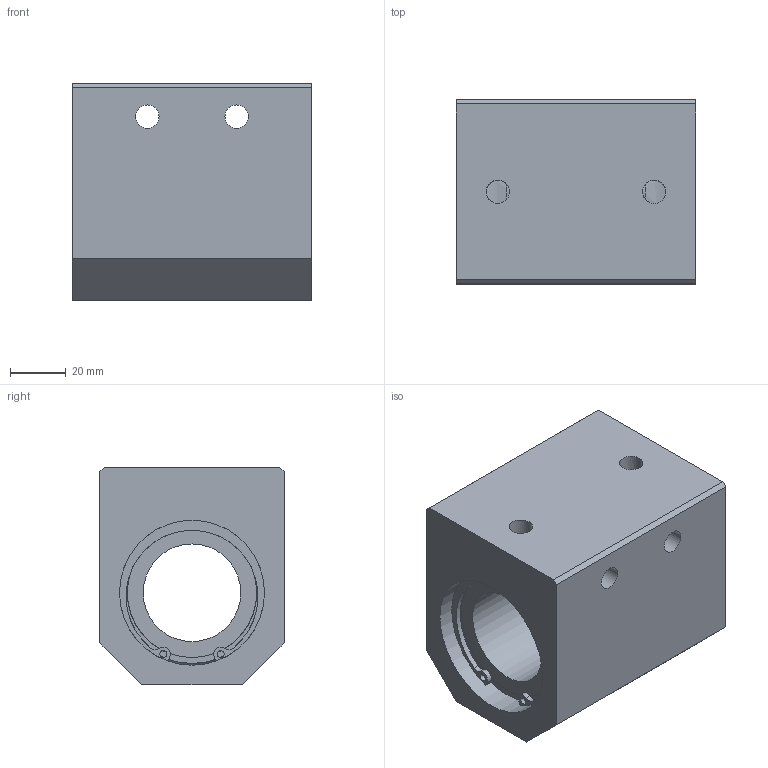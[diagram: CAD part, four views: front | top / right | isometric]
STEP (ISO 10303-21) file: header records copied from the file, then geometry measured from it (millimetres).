
FILE_DESCRIPTION((''),'2;1');
FILE_NAME('D:\製品 (図面)\カタログ用3D\リニアベアリング関連(改)\STEP形式\CH\CH35.stp','2010-01-25T09:35:43',('Tsuchiya'),(''),'Autodesk Inventor 10','Autodesk Inventor 10','');
FILE_SCHEMA(('AUTOMOTIVE_DESIGN { 1 0 10303 214 1 1 1 1 }'));
Length unit declared in the file: millimetre
Products named in the file (1): CH35
Bounding box: 86 x 66 x 78 mm (x, y, z)
Volume: 309587.8 mm3; surface area: 49696.2 mm2
Topology: 1 solids, 1 shells, 75 faces, 215 edges, 132 vertices
Faces by surface type: plane 33, bspline 22, cylinder 18, torus 2
Full cylindrical faces by diameter (mm): 2.5 x2, 35 x1, 46.4 x2, 49 x2, 52 x4
Entity records: 2574 total; most frequent: CARTESIAN_POINT 750, DIRECTION 392, ORIENTED_EDGE 348, EDGE_CURVE 174, AXIS2_PLACEMENT_3D 170, EDGE_LOOP 118, CIRCLE 116, VERTEX_POINT 114
